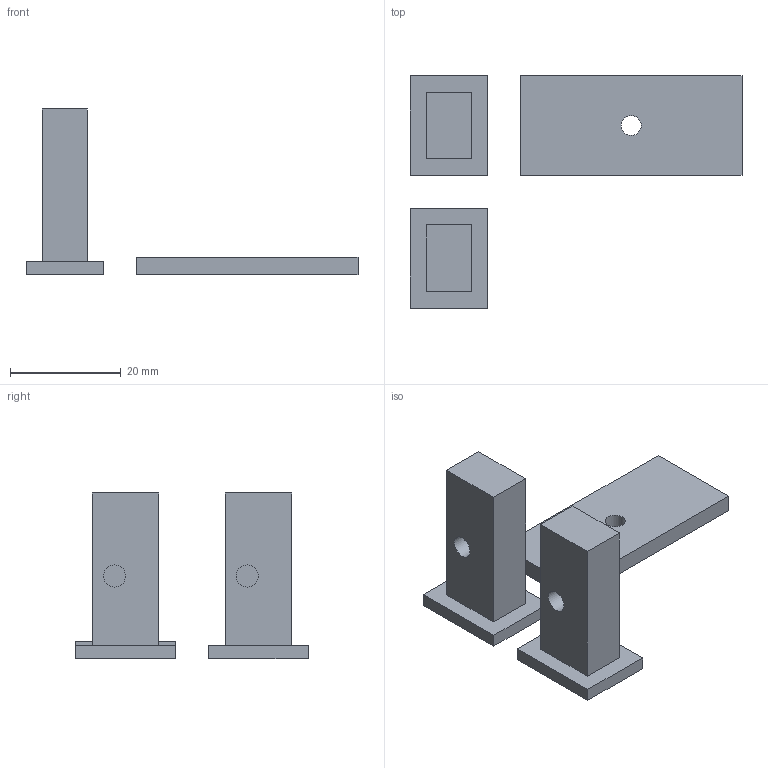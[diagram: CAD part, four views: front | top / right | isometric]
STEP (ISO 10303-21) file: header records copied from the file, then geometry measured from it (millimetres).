
FILE_DESCRIPTION(('FreeCAD Model'),'2;1');
FILE_NAME('Open CASCADE Shape Model','2026-09-11T13:41:38',( '' ),( '' ),'Open CASCADE STEP processor 7.8','FreeCAD','Unknown');
FILE_SCHEMA(('AUTOMOTIVE_DESIGN { 1 0 10303 214 1 1 1 1 }'));
Length unit declared in the file: millimetre
Products named in the file (1): Open CASCADE STEP translator 7.8 25
Bounding box: 60 x 42 x 30 mm (x, y, z)
Volume: 8765.7 mm3; surface area: 5519.3 mm2
Topology: 3 solids, 3 shells, 33 faces, 69 edges, 46 vertices
Faces by surface type: plane 30, cylinder 3
Full cylindrical faces by diameter (mm): 3.6 x1, 4 x2
Entity records: 879 total; most frequent: CARTESIAN_POINT 149, DIRECTION 143, ORIENTED_EDGE 138, EDGE_CURVE 69, LINE 63, VECTOR 63, VERTEX_POINT 46, AXIS2_PLACEMENT_3D 40
